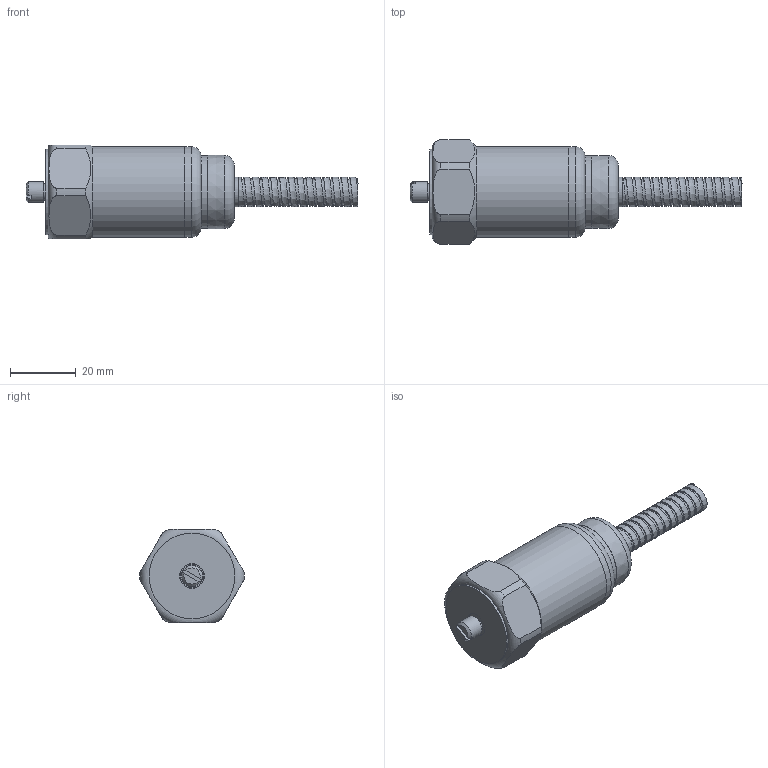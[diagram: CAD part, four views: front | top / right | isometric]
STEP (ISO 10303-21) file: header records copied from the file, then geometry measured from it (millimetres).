
FILE_DESCRIPTION(/* description */ (''),/* implementation_level */ '2;1');
FILE_NAME(/* name */ 'Z:\Engineering\Drawings\3D Library\Assemblies\Website\420 Velocity Top\HS-420XXX30C02.stp',/* time_stamp */ '2023-05-03T15:07:02+01:00',/* author */ ('Ricardo.Peneda'),/* organization */ (''),/* preprocessor_version */ 'ST-DEVELOPER v18.1',/* originating_system */ 'Autodesk Inventor 2021',/* authorisation */ '');
FILE_SCHEMA (('AUTOMOTIVE_DESIGN { 1 0 10303 214 3 1 1 }'));
Length unit declared in the file: inch
Products named in the file (1): HS-420XXX30C02_Shrinkwrap_1
Bounding box: 100.8 x 31.69 x 28.5 mm (x, y, z)
Volume: 14412 mm3; surface area: 14949 mm2
Topology: 5 solids, 5 shells, 99 faces, 266 edges, 186 vertices
Faces by surface type: plane 34, cone 31, cylinder 22, bspline 8, torus 4
Full cylindrical faces by diameter (mm): 4.914 x2, 6.3 x1, 6.34 x2, 7.027 x1, 7.5 x1, 9 x1, 20 x1, 22 x1, 23.3 x1, 25.3 x2, 26 x1, 27.5 x2
Entity records: 17434 total; most frequent: CARTESIAN_POINT 14732, DIRECTION 558, ORIENTED_EDGE 532, EDGE_CURVE 266, AXIS2_PLACEMENT_3D 238, VERTEX_POINT 186, CIRCLE 146, EDGE_LOOP 112
